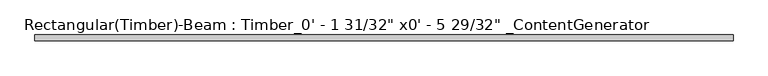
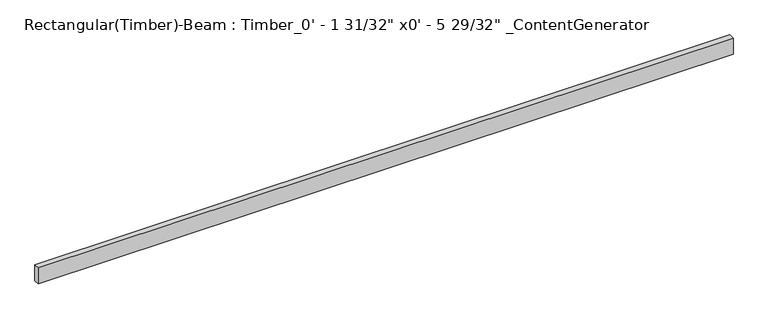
"""IFC4 building model written with IfcOpenShell, lengths in millimetres: beam geometry."""

from ifc_helpers import new_model, si_unit, frame, origin, place, context, project, spatial, polyline, outline, extrude, source, transform, mapped, element, save


def beam_6c61fdf5(model_context):
    return source(origin(), model_context, "Body", "SweptSolid", [
        extrude(outline(polyline([(3098.8, 25.4), (3098.8, -25.4), (-3124.2, -25.4), (-3124.2, 25.4), (3098.8, 25.4)])), frame((0.0, 0.0, -76.2), z_axis=(0.0, 0.0, 1.0), x_axis=(1.0, 0.0, 0.0)), (0.0, 0.0, 1.0), 152.4),
    ])


if __name__ == "__main__":
    model = new_model("IFC4")
    model_context = context("Model", 3, world=origin())
    ifc_project = project(units=[si_unit("LENGTHUNIT", "METRE", prefix="MILLI")], contexts=[model_context])
    site = spatial("IfcSite", under=ifc_project)
    building = spatial("IfcBuilding", under=site)
    placement = place(None, origin())
    beam_shape = beam_6c61fdf5(model_context)
    element("IfcBeam", 1, ObjectType="Rectangular(Timber)-Beam : Timber_0' - 1 31/32\" x0' - 5 29/32\" _ContentGenerator", at=placement, inside=building, context=model_context, shape_type="MappedRepresentation", body=[
        mapped(beam_shape, transform((0.0, 0.0, 0.0), x_axis=(1.0, 0.0, 0.0), y_axis=(0.0, 1.0, 0.0), z_axis=(0.0, 0.0, 1.0))),
    ])
    save(model, "model.ifc")
